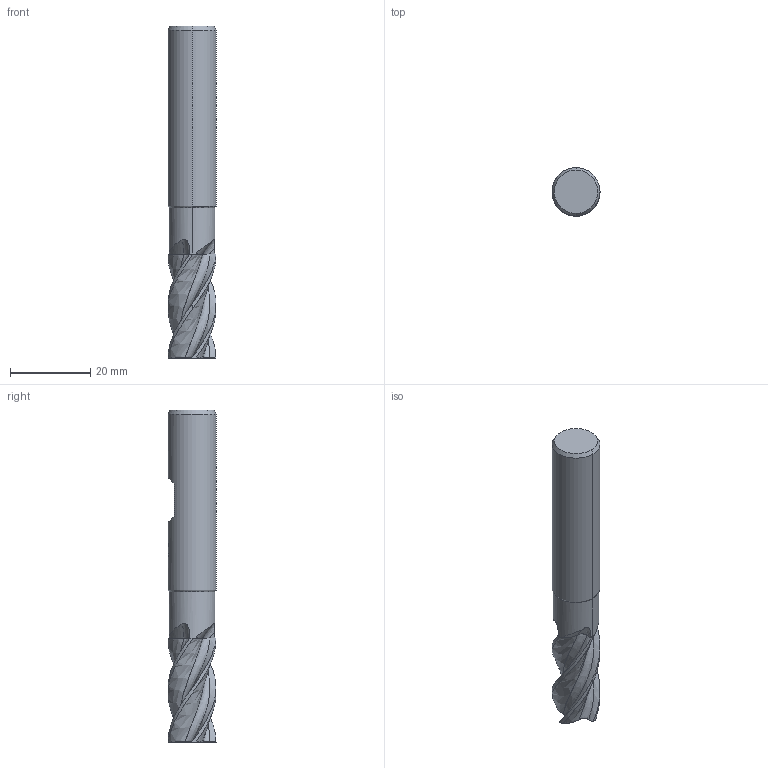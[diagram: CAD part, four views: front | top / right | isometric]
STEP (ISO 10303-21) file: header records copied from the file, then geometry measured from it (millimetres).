
FILE_DESCRIPTION(('no description'),'unknown implementation level');
FILE_NAME('solidSKGvGzZdFGesEvYMCaqumNnhV9Q_1.STP',' ',('CIMSOURCE GmbH'),('CADClick - KiM GmbH - www.kimweb.de'),'unknown preprocess','ACIS','unknown authorization');
FILE_SCHEMA(('automotive_design'));
Length unit declared in the file: millimetre
Products named in the file (2): NOCUT; CUT
Bounding box: 12 x 12 x 83 mm (x, y, z)
Volume: 7766.7 mm3; surface area: 4440.7 mm2
Topology: 2 solids, 2 shells, 125 faces, 358 edges, 236 vertices
Faces by surface type: bspline 48, plane 27, cone 22, cylinder 16, revolution 12
Entity records: 22498 total; most frequent: CARTESIAN_POINT 15679, STYLED_ITEM 721, PRESENTATION_STYLE_ASSIGNMENT 721, COLOUR_RGB 721, ORIENTED_EDGE 716, DIRECTION 392, EDGE_CURVE 358, CURVE_STYLE 358
